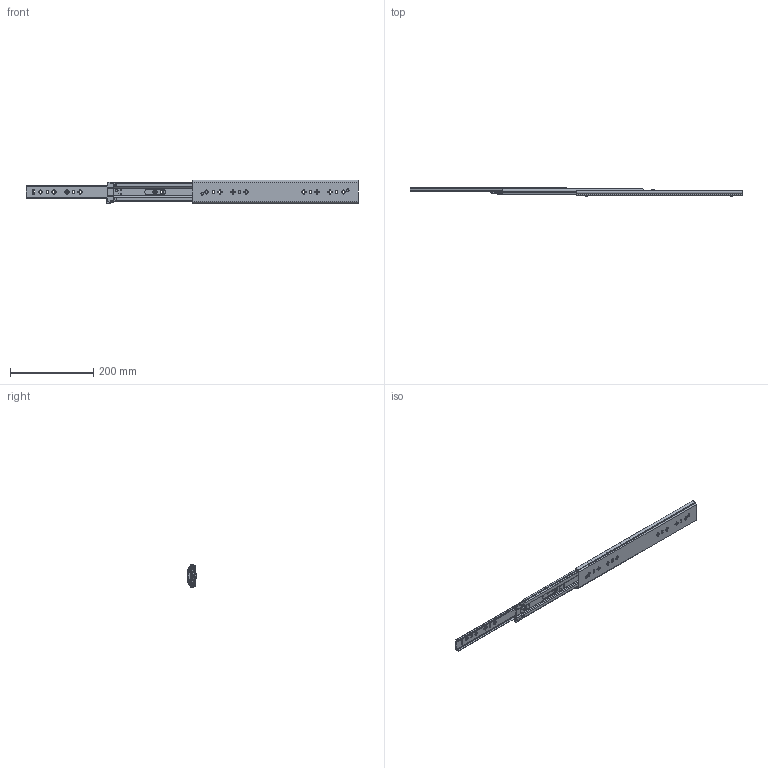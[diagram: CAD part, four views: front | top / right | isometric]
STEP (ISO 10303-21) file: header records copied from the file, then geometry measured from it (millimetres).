
FILE_DESCRIPTION((''),'2;1');
FILE_NAME('1057-C-16_ASM','2023-11-23T',('jishu015'),(''),'PRO/ENGINEER BY PARAMETRIC TECHNOLOGY CORPORATION, 2010280','PRO/ENGINEER BY PARAMETRIC TECHNOLOGY CORPORATION, 2010280','');
FILE_SCHEMA(('CONFIG_CONTROL_DESIGN'));
Length unit declared in the file: millimetre
Products named in the file (19): KP-57-01WEIKE-31__; MAODING-WAI__; 1057DAZHUJIA-20GE1__; 1057ZHUJIADANWEIJIAO12________; 1057-5-6GANZHU1__; 1057DAZHUJIA-20GE_11______ASM; 1057-C-20-KE___ASM; KP-57-01ZHONGGUI-28_______; PEIJIAN-22__; ZHUANJIAO112__; LIUJIAO-DING11__; MAODING-P__; PEIJIAN-ZHONG___ASM; 1057XIAOZHUJIA___20___; 1057XIAOZHUJIA-20GE____ASM; KP-57-01ZHONGGUI-28________ASM; KP-57-01NEIGUI-241__; KP-57-01NEIGUI-241___ASM; 1057-C-16_ASM
Assembly tree (64 placements, depth 4):
  1057-C-16_ASM
    1057-C-20-KE___ASM
      KP-57-01WEIKE-31__
      MAODING-WAI__  x2
      1057DAZHUJIA-20GE_11______ASM
        1057DAZHUJIA-20GE1__
        1057ZHUJIADANWEIJIAO12________  x2
        1057-5-6GANZHU1__  x20
    KP-57-01ZHONGGUI-28________ASM
      KP-57-01ZHONGGUI-28_______
      PEIJIAN-ZHONG___ASM  x2
        PEIJIAN-22__
        ZHUANJIAO112__
        LIUJIAO-DING11__
        MAODING-P__
      MAODING-WAI__  x2
      1057XIAOZHUJIA-20GE____ASM
        1057XIAOZHUJIA___20___
        1057-5-6GANZHU1__  x20
        1057ZHUJIADANWEIJIAO12________  x2
    KP-57-01NEIGUI-241___ASM
      KP-57-01NEIGUI-241__
Bounding box: 800 x 19.8 x 57.67 mm (x, y, z)
Volume: 165514.2 mm3; surface area: 188623.2 mm2
Topology: 61 solids, 61 shells, 2028 faces, 5564 edges, 3492 vertices
Faces by surface type: plane 904, cylinder 794, torus 88, sphere 86, cone 82, bspline 74
Entity records: 53712 total; most frequent: CARTESIAN_POINT 11931, DIRECTION 8826, ORIENTED_EDGE 8670, EDGE_CURVE 4335, AXIS2_PLACEMENT_3D 3086, VERTEX_POINT 2796, VECTOR 2654, LINE 2654
